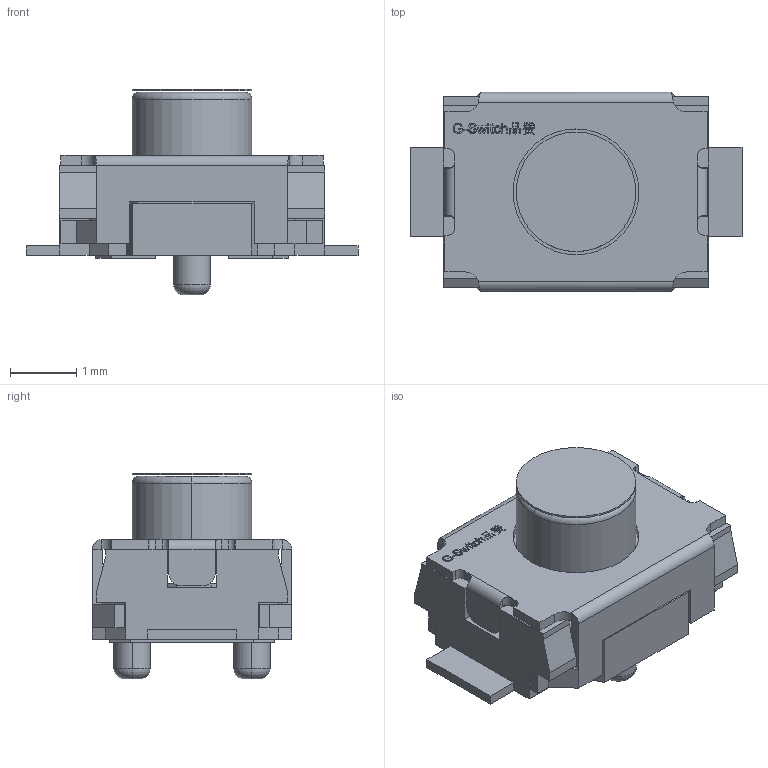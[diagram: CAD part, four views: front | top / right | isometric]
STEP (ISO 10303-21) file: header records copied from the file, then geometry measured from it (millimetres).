
FILE_DESCRIPTION (( 'STEP AP214' ), '1' );
FILE_NAME ('GT-TC029C-HXXX-LXA.STEP', '2025-06-07T02:02:20', ( '' ), ( '' ), 'SwSTEP 2.0', 'SolidWorks 2023', '' );
FILE_SCHEMA (( 'AUTOMOTIVE_DESIGN' ));
Length unit declared in the file: millimetre
Products named in the file (1): GT-TC029C-HXXX-LXA
Bounding box: 5 x 3 x 3.1 mm (x, y, z)
Volume: 13.3 mm3; surface area: 109.3 mm2
Topology: 2 solids, 2 shells, 551 faces, 1576 edges, 1035 vertices
Faces by surface type: plane 408, bspline 74, cylinder 57, torus 12
Entity records: 21467 total; most frequent: CARTESIAN_POINT 7401, ORIENTED_EDGE 3152, DIRECTION 2525, EDGE_CURVE 1576, VECTOR 1263, LINE 1263, VERTEX_POINT 1035, AXIS2_PLACEMENT_3D 631
